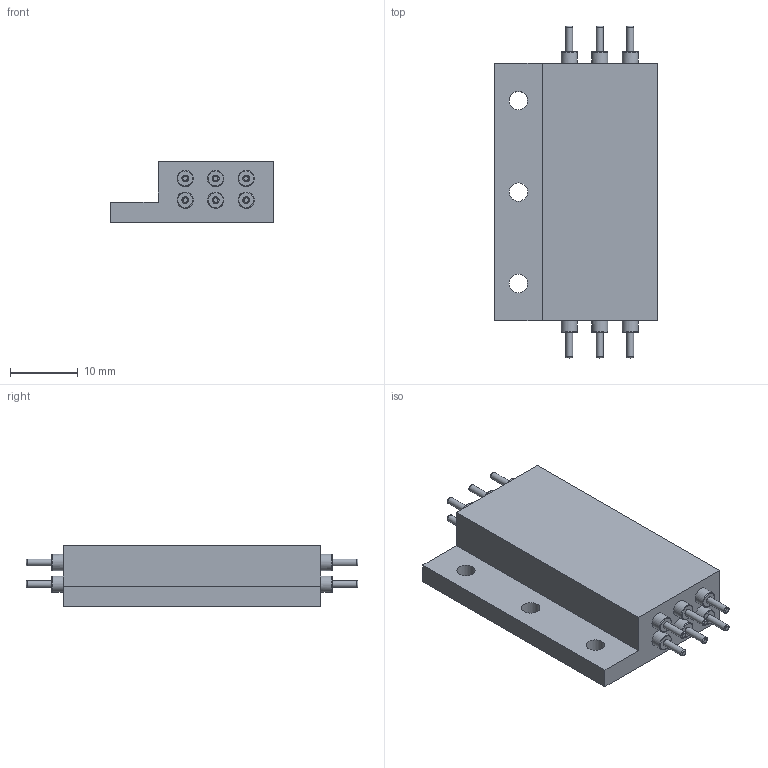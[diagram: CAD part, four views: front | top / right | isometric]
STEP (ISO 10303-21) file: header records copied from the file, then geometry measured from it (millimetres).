
FILE_DESCRIPTION(/* description */ (''),/* implementation_level */ '2;1');
FILE_NAME(/* name */ 'F:\daten\PRODUKTE\TELEMETR\SV\Mechanik\CAD\3b\Geh_B24xT38xH9\kunde\SV_3b_B24xT38xH9.stp',/* time_stamp */ '2019-09-03T09:16:39+02:00',/* author */ ('dschaefer'),/* organization */ (''),/* preprocessor_version */ 'ST-DEVELOPER v16.5',/* originating_system */ 'Autodesk Inventor 2017',/* authorisation */ '');
FILE_SCHEMA (('AUTOMOTIVE_DESIGN { 1 0 10303 214 3 1 1 }'));
Length unit declared in the file: millimetre
Products named in the file (1): SV_3b_B24xT38xH9
Bounding box: 24 x 49 x 9 mm (x, y, z)
Volume: 6628.7 mm3; surface area: 3451.1 mm2
Topology: 1 solids, 2 shells, 113 faces, 251 edges, 168 vertices
Faces by surface type: plane 56, cylinder 32, torus 24, cone 1
Full cylindrical faces by diameter (mm): 1 x12, 2.4 x12, 2.7 x3, 3.8 x1
Entity records: 2812 total; most frequent: DIRECTION 488, CARTESIAN_POINT 426, ORIENTED_EDGE 342, AXIS2_PLACEMENT_3D 203, EDGE_LOOP 198, EDGE_CURVE 171, VERTEX_POINT 141, FACE_OUTER_BOUND 113
